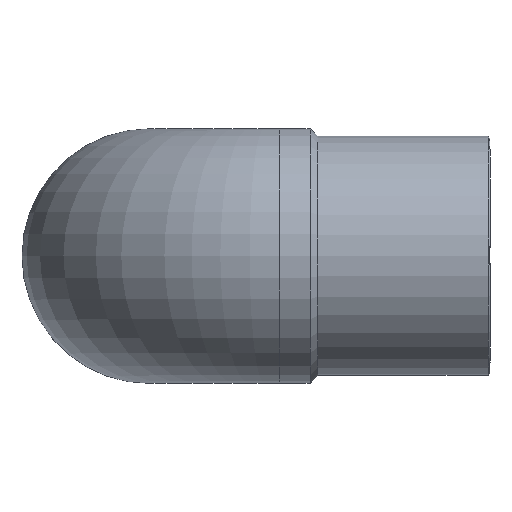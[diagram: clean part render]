
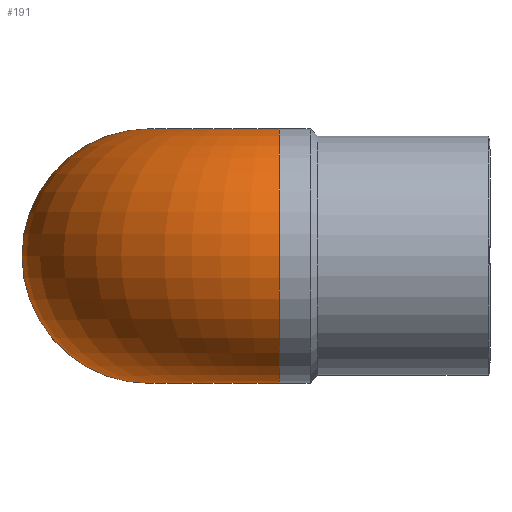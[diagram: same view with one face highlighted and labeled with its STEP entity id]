
A CAD part, top view. The second image highlights one B-rep face of the part: STEP entity #191.
In plain terms, the highlighted toroidal (fillet/blend) face has major radius 68 mm and minor radius 66.5 mm.
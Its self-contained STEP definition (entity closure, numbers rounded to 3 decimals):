
#20=TOROIDAL_SURFACE('',#231,68.,66.5);
#59=ORIENTED_EDGE('',*,*,#77,.F.);
#60=ORIENTED_EDGE('',*,*,#79,.T.);
#77=EDGE_CURVE('',#96,#96,#114,.F.);
#79=EDGE_CURVE('',#98,#98,#116,.F.);
#96=VERTEX_POINT('',#312);
#98=VERTEX_POINT('',#318);
#114=CIRCLE('',#217,66.5);
#116=CIRCLE('',#221,66.5);
#142=EDGE_LOOP('',(#59));
#143=EDGE_LOOP('',(#60));
#169=FACE_BOUND('',#142,.T.);
#170=FACE_BOUND('',#143,.T.);
#191=ADVANCED_FACE('',(#169,#170),#20,.T.);
#217=AXIS2_PLACEMENT_3D('',#311,#256,#257);
#221=AXIS2_PLACEMENT_3D('',#317,#264,#265);
#231=AXIS2_PLACEMENT_3D('',#365,#284,#285);
#256=DIRECTION('',(-1.,0.,0.));
#257=DIRECTION('',(0.,0.,-1.));
#264=DIRECTION('',(0.,0.,-1.));
#265=DIRECTION('',(1.,0.,0.));
#284=DIRECTION('',(0.,1.,0.));
#285=DIRECTION('',(0.,0.,1.));
#311=CARTESIAN_POINT('',(68.,0.,178.));
#312=CARTESIAN_POINT('',(68.,0.,111.5));
#317=CARTESIAN_POINT('',(0.,0.,110.));
#318=CARTESIAN_POINT('',(66.5,0.,110.));
#365=CARTESIAN_POINT('',(68.,0.,110.));
